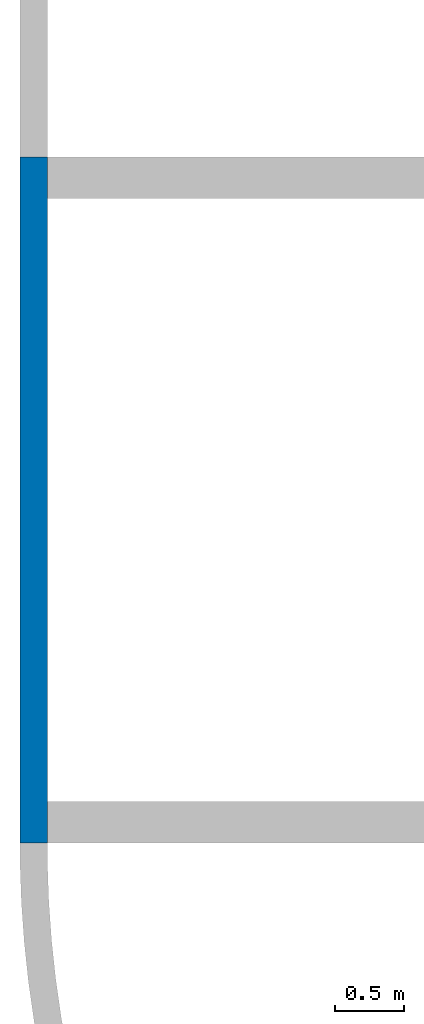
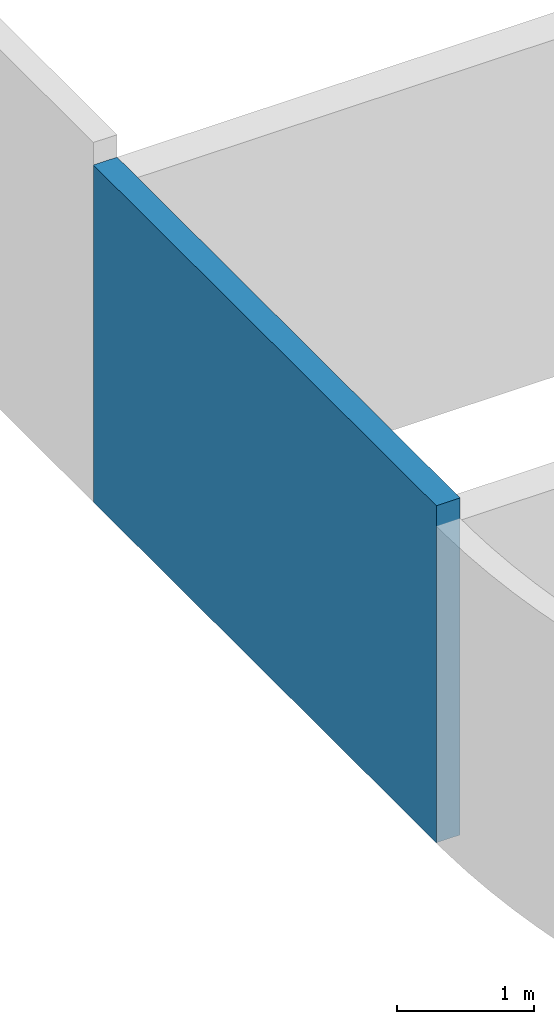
# One storey, part 1 of 6: 1 wall.
"""IFC4 building model written with IfcOpenShell, lengths in millimetres."""

from ifc_helpers import new_model, entity, si_unit, converted_unit, derived_unit, direction, frame, origin_with_axes, place, context, subcontext, project, spatial, polygons, material, constituent, constituent_set, type_object, element, save


model = new_model("IFC4")

# Units and contexts
model_context = context("Model", 3, precision=0.01, world=origin_with_axes(), true_north=direction((0.0, 1.0)))
body_context = subcontext(model_context, "Body", "Model", "MODEL_VIEW")
ifc_project = project(units=[si_unit("LENGTHUNIT", "METRE", prefix="MILLI"), si_unit("AREAUNIT", "SQUARE_METRE"), si_unit("VOLUMEUNIT", "CUBIC_METRE"), converted_unit("PLANEANGLEUNIT", "DEGREE", entity("IfcPlaneAngleMeasure", 0.0174532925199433), si_unit("PLANEANGLEUNIT", "RADIAN"), dimensions=[0, 0, 0, 0, 0, 0, 0]), converted_unit("TIMEUNIT", "Year", entity("IfcTimeMeasure", 31557600.0), si_unit("TIMEUNIT", "SECOND"), dimensions=[0, 0, 1, 0, 0, 0, 0]), si_unit("MASSUNIT", "GRAM", prefix="KILO"), si_unit("THERMODYNAMICTEMPERATUREUNIT", "DEGREE_CELSIUS"), si_unit("LUMINOUSINTENSITYUNIT", "LUMEN"), si_unit("ENERGYUNIT", "JOULE", prefix="MEGA"), derived_unit("THERMALCONDUCTANCEUNIT", [(si_unit("POWERUNIT", "WATT"), 1), (si_unit("LENGTHUNIT", "METRE"), -1), (si_unit("THERMODYNAMICTEMPERATUREUNIT", "KELVIN"), -1)]), derived_unit("SPECIFICHEATCAPACITYUNIT", [(si_unit("ENERGYUNIT", "JOULE"), 1), (si_unit("MASSUNIT", "GRAM", prefix="KILO"), -1), (si_unit("THERMODYNAMICTEMPERATUREUNIT", "KELVIN"), -1)]), derived_unit("MASSDENSITYUNIT", [(si_unit("MASSUNIT", "GRAM", prefix="KILO"), 1), (si_unit("VOLUMEUNIT", "CUBIC_METRE"), -1)])], contexts=[model_context])

# Site, building, storey
site_placement = place(None, origin_with_axes())
site = spatial("IfcSite", under=ifc_project, at=site_placement, Name="Exteriér", CompositionType="ELEMENT")
building_placement = place(site_placement, origin_with_axes())
building = spatial("IfcBuilding", under=site, at=building_placement, Name="Univerzitní lezecké centrum", CompositionType="ELEMENT")
storey_placement = place(building_placement, frame((0.0, 0.0, 6400.0), z_axis=(0.0, 0.0, 1.0), x_axis=(1.0, 0.0, 0.0)))
storey = spatial("IfcBuildingStorey", under=building, at=storey_placement, Name="3.NP", CompositionType="ELEMENT", Elevation=6400.0)

# Wall
ifc_material = material(Name="Beton vyztužený - vnější svislé kce")
ifc_constituent = constituent(ifc_material, Name="Beton vyztužený - vnější svislé kce")
ifc_constituent_set = constituent_set(constituents=[ifc_constituent], Name="!Vnější betonová stěna 200 mm")
wall_type = type_object("IfcWallType", Name="!Vnější betonová stěna 200 mm 200", PredefinedType="NOTDEFINED")
wall_placement = place(storey_placement, frame((-5550.148351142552, 4700.000000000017, -120.000000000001), z_axis=(0.0, 0.0, 1.0), x_axis=(0.0, -1.0, 0.0)))
element("IfcWall", 1, at=wall_placement, inside=storey, type_object=wall_type, material=ifc_constituent_set, Name="St01", PredefinedType="NOTDEFINED", context=body_context, shape_type="Tessellation", body=[
    polygons([(0.0, 0.0, 0.0), (5000.0, 0.0, 0.0), (5000.0, -200.0000000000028, 0.0), (0.0, -200.0000000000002, 0.0), (0.0, 0.0, 3000.000000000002), (5000.0, 0.0, 3000.000000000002), (5000.0, -200.000000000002, 3000.000000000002), (0.0, -200.0000000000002, 3000.000000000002)], [[[1, 2, 3, 4]], [[5, 6, 2, 1]], [[3, 2, 6, 7]], [[4, 3, 7, 8]], [[5, 1, 4, 8]], [[8, 7, 6, 5]]], closed=True),
])

save(model, "model.ifc")
